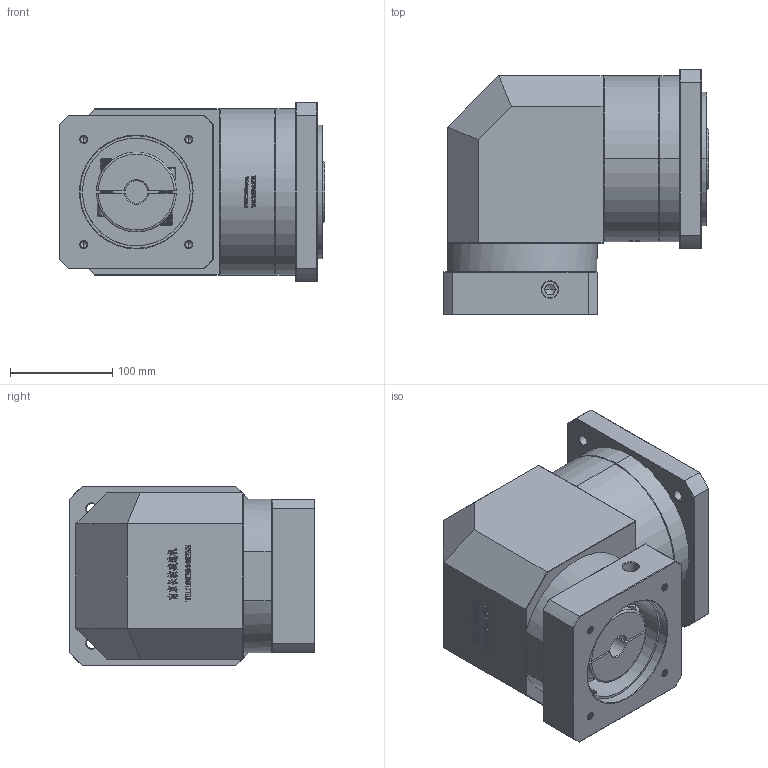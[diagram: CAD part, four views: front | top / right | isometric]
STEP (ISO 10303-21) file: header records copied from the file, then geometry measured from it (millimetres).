
FILE_DESCRIPTION (( 'STEP AP214' ), '1' );
FILE_NAME ('ZFR160A-K35-L1-22-110-145-M8.step', '2023-03-22T11:46:45', ( '' ), ( '' ), 'SwSTEP 2.0', 'SolidWorks 2016', '' );
FILE_SCHEMA (( 'AUTOMOTIVE_DESIGN' ));
Length unit declared in the file: millimetre
Products named in the file (1): ZFR160A-K35-L1-22-110-145-M8
Bounding box: 258.7 x 239.5 x 175 mm (x, y, z)
Volume: 6437570.6 mm3; surface area: 426525.8 mm2
Topology: 6 solids, 6 shells, 2483 faces, 6545 edges, 4214 vertices
Faces by surface type: plane 1268, bspline 493, cylinder 401, cone 301, torus 20
Entity records: 138346 total; most frequent: CARTESIAN_POINT 53986, ORIENTED_EDGE 13034, DIRECTION 9889, EDGE_CURVE 6517, VERTEX_POINT 4214, VECTOR 4119, LINE 4119, AXIS2_PLACEMENT_3D 2885
